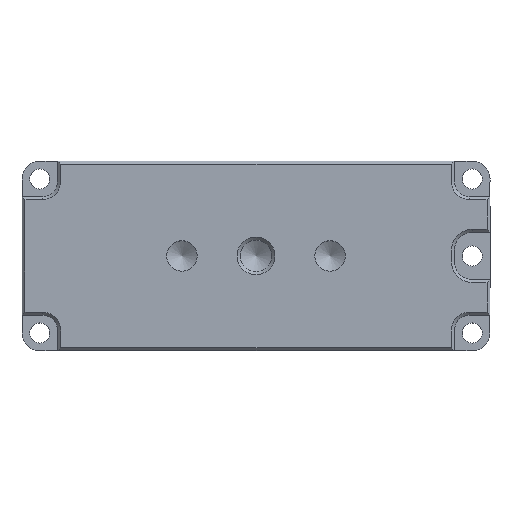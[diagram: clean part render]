
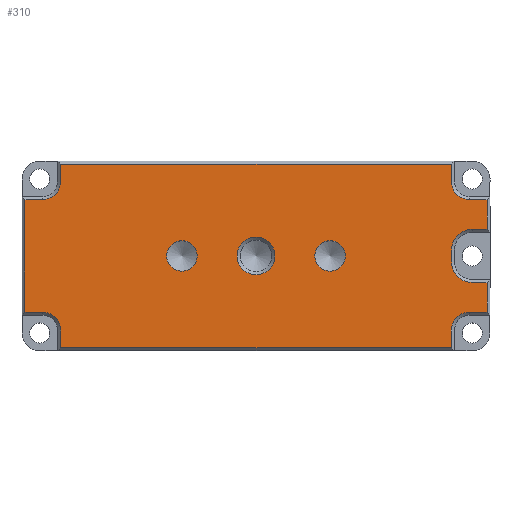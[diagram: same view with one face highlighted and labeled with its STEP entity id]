
A CAD part, top view. The second image highlights one B-rep face of the part: STEP entity #310.
In plain terms, the highlighted planar face has unit normal (0, 0, 1).
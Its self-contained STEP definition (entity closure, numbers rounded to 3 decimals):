
#84=CARTESIAN_POINT('',(-6.816,0.,9.));
#85=VERTEX_POINT('',#84);
#86=CARTESIAN_POINT('',(-10.0,0.0,9.));
#87=DIRECTION('',(0.0,0.0,1.0));
#88=DIRECTION('',(-1.0,0.0,0.0));
#89=AXIS2_PLACEMENT_3D('',#86,#87,#88);
#90=CIRCLE('',#89,3.184);
#91=EDGE_CURVE('',#85,#85,#90,.T.);
#96=CARTESIAN_POINT('',(-10.,0.,9.));
#97=DIRECTION('',(0.0,0.0,1.0));
#98=DIRECTION('',(1.0,0.0,0.0));
#99=AXIS2_PLACEMENT_3D('',#96,#97,#98);
#100=PLANE('',#99);
#101=CARTESIAN_POINT('',(29.,9.5,9.));
#102=VERTEX_POINT('',#101);
#103=CARTESIAN_POINT('',(29.,4.5,9.));
#104=VERTEX_POINT('',#103);
#105=CARTESIAN_POINT('',(29.,9.5,9.));
#106=DIRECTION('',(0.0,-1.0,0.0));
#107=VECTOR('',#106,5.);
#108=LINE('',#105,#107);
#109=EDGE_CURVE('',#102,#104,#108,.T.);
#110=ORIENTED_EDGE('',*,*,#109,.F.);
#111=CARTESIAN_POINT('',(26.,9.5,9.));
#112=VERTEX_POINT('',#111);
#113=CARTESIAN_POINT('',(26.,9.5,9.));
#114=DIRECTION('',(1.0,0.0,0.0));
#115=VECTOR('',#114,3.);
#116=LINE('',#113,#115);
#117=EDGE_CURVE('',#112,#102,#116,.T.);
#118=ORIENTED_EDGE('',*,*,#117,.F.);
#119=CARTESIAN_POINT('',(23.,12.5,9.));
#120=VERTEX_POINT('',#119);
#121=CARTESIAN_POINT('',(26.,12.5,9.));
#122=DIRECTION('',(0.0,0.0,1.));
#123=DIRECTION('',(-0.707,-0.707,0.0));
#124=AXIS2_PLACEMENT_3D('',#121,#122,#123);
#125=CIRCLE('',#124,3.);
#126=EDGE_CURVE('',#120,#112,#125,.T.);
#127=ORIENTED_EDGE('',*,*,#126,.F.);
#128=CARTESIAN_POINT('',(23.,15.5,9.));
#129=VERTEX_POINT('',#128);
#130=CARTESIAN_POINT('',(23.,15.5,9.));
#131=DIRECTION('',(0.0,-1.0,0.0));
#132=VECTOR('',#131,3.);
#133=LINE('',#130,#132);
#134=EDGE_CURVE('',#129,#120,#133,.T.);
#135=ORIENTED_EDGE('',*,*,#134,.F.);
#136=CARTESIAN_POINT('',(-43.,15.5,9.));
#137=VERTEX_POINT('',#136);
#138=CARTESIAN_POINT('',(-43.,15.5,9.));
#139=DIRECTION('',(1.0,0.0,0.0));
#140=VECTOR('',#139,66.);
#141=LINE('',#138,#140);
#142=EDGE_CURVE('',#137,#129,#141,.T.);
#143=ORIENTED_EDGE('',*,*,#142,.F.);
#144=CARTESIAN_POINT('',(-43.,12.5,9.));
#145=VERTEX_POINT('',#144);
#146=CARTESIAN_POINT('',(-43.,12.5,9.));
#147=DIRECTION('',(0.0,1.0,0.0));
#148=VECTOR('',#147,3.);
#149=LINE('',#146,#148);
#150=EDGE_CURVE('',#145,#137,#149,.T.);
#151=ORIENTED_EDGE('',*,*,#150,.F.);
#152=CARTESIAN_POINT('',(-46.,9.5,9.));
#153=VERTEX_POINT('',#152);
#154=CARTESIAN_POINT('',(-46.,12.5,9.));
#155=DIRECTION('',(0.0,0.0,1.));
#156=DIRECTION('',(0.707,-0.707,0.0));
#157=AXIS2_PLACEMENT_3D('',#154,#155,#156);
#158=CIRCLE('',#157,3.);
#159=EDGE_CURVE('',#153,#145,#158,.T.);
#160=ORIENTED_EDGE('',*,*,#159,.F.);
#161=CARTESIAN_POINT('',(-49.,9.5,9.));
#162=VERTEX_POINT('',#161);
#163=CARTESIAN_POINT('',(-49.0,9.5,9.));
#164=DIRECTION('',(1.0,0.0,0.0));
#165=VECTOR('',#164,3.);
#166=LINE('',#163,#165);
#167=EDGE_CURVE('',#162,#153,#166,.T.);
#168=ORIENTED_EDGE('',*,*,#167,.F.);
#169=CARTESIAN_POINT('',(-49.,-9.5,9.));
#170=VERTEX_POINT('',#169);
#171=CARTESIAN_POINT('',(-49.,-9.5,9.));
#172=DIRECTION('',(0.0,1.0,0.0));
#173=VECTOR('',#172,19.0);
#174=LINE('',#171,#173);
#175=EDGE_CURVE('',#170,#162,#174,.T.);
#176=ORIENTED_EDGE('',*,*,#175,.F.);
#177=CARTESIAN_POINT('',(-46.,-9.5,9.));
#178=VERTEX_POINT('',#177);
#179=CARTESIAN_POINT('',(-46.,-9.5,9.));
#180=DIRECTION('',(-1.0,0.0,0.0));
#181=VECTOR('',#180,3.);
#182=LINE('',#179,#181);
#183=EDGE_CURVE('',#178,#170,#182,.T.);
#184=ORIENTED_EDGE('',*,*,#183,.F.);
#185=CARTESIAN_POINT('',(-43.,-12.5,9.));
#186=VERTEX_POINT('',#185);
#187=CARTESIAN_POINT('',(-46.,-12.5,9.));
#188=DIRECTION('',(0.0,0.0,1.));
#189=DIRECTION('',(0.707,0.707,0.0));
#190=AXIS2_PLACEMENT_3D('',#187,#188,#189);
#191=CIRCLE('',#190,3.);
#192=EDGE_CURVE('',#186,#178,#191,.T.);
#193=ORIENTED_EDGE('',*,*,#192,.F.);
#194=CARTESIAN_POINT('',(-43.,-15.5,9.));
#195=VERTEX_POINT('',#194);
#196=CARTESIAN_POINT('',(-43.,-15.5,9.));
#197=DIRECTION('',(0.0,1.0,0.0));
#198=VECTOR('',#197,3.);
#199=LINE('',#196,#198);
#200=EDGE_CURVE('',#195,#186,#199,.T.);
#201=ORIENTED_EDGE('',*,*,#200,.F.);
#202=CARTESIAN_POINT('',(23.,-15.5,9.));
#203=VERTEX_POINT('',#202);
#204=CARTESIAN_POINT('',(23.,-15.5,9.));
#205=DIRECTION('',(-1.0,0.0,0.0));
#206=VECTOR('',#205,66.);
#207=LINE('',#204,#206);
#208=EDGE_CURVE('',#203,#195,#207,.T.);
#209=ORIENTED_EDGE('',*,*,#208,.F.);
#210=CARTESIAN_POINT('',(23.,-12.5,9.));
#211=VERTEX_POINT('',#210);
#212=CARTESIAN_POINT('',(23.,-12.5,9.));
#213=DIRECTION('',(0.0,-1.0,0.0));
#214=VECTOR('',#213,3.);
#215=LINE('',#212,#214);
#216=EDGE_CURVE('',#211,#203,#215,.T.);
#217=ORIENTED_EDGE('',*,*,#216,.F.);
#218=CARTESIAN_POINT('',(26.,-9.5,9.));
#219=VERTEX_POINT('',#218);
#220=CARTESIAN_POINT('',(26.,-12.5,9.));
#221=DIRECTION('',(0.0,0.0,1.));
#222=DIRECTION('',(-0.707,0.707,0.0));
#223=AXIS2_PLACEMENT_3D('',#220,#221,#222);
#224=CIRCLE('',#223,3.);
#225=EDGE_CURVE('',#219,#211,#224,.T.);
#226=ORIENTED_EDGE('',*,*,#225,.F.);
#227=CARTESIAN_POINT('',(29.,-9.5,9.));
#228=VERTEX_POINT('',#227);
#229=CARTESIAN_POINT('',(29.,-9.5,9.));
#230=DIRECTION('',(-1.0,0.0,0.0));
#231=VECTOR('',#230,3.);
#232=LINE('',#229,#231);
#233=EDGE_CURVE('',#228,#219,#232,.T.);
#234=ORIENTED_EDGE('',*,*,#233,.F.);
#235=CARTESIAN_POINT('',(29.,-4.5,9.));
#236=VERTEX_POINT('',#235);
#237=CARTESIAN_POINT('',(29.,-4.5,9.));
#238=DIRECTION('',(0.0,-1.0,0.0));
#239=VECTOR('',#238,5.);
#240=LINE('',#237,#239);
#241=EDGE_CURVE('',#236,#228,#240,.T.);
#242=ORIENTED_EDGE('',*,*,#241,.F.);
#243=CARTESIAN_POINT('',(26.5,-4.5,9.));
#244=VERTEX_POINT('',#243);
#245=CARTESIAN_POINT('',(26.5,-4.5,9.));
#246=DIRECTION('',(1.0,0.0,0.0));
#247=VECTOR('',#246,2.5);
#248=LINE('',#245,#247);
#249=EDGE_CURVE('',#244,#236,#248,.T.);
#250=ORIENTED_EDGE('',*,*,#249,.F.);
#251=CARTESIAN_POINT('',(23.,-1.,9.));
#252=VERTEX_POINT('',#251);
#253=CARTESIAN_POINT('',(26.5,-1.,9.));
#254=DIRECTION('',(0.0,0.0,1.0));
#255=DIRECTION('',(-0.707,-0.707,0.0));
#256=AXIS2_PLACEMENT_3D('',#253,#254,#255);
#257=CIRCLE('',#256,3.5);
#258=EDGE_CURVE('',#252,#244,#257,.T.);
#259=ORIENTED_EDGE('',*,*,#258,.F.);
#260=CARTESIAN_POINT('',(23.,1.,9.));
#261=VERTEX_POINT('',#260);
#262=CARTESIAN_POINT('',(23.,1.,9.));
#263=DIRECTION('',(0.0,-1.0,0.0));
#264=VECTOR('',#263,2.);
#265=LINE('',#262,#264);
#266=EDGE_CURVE('',#261,#252,#265,.T.);
#267=ORIENTED_EDGE('',*,*,#266,.F.);
#268=CARTESIAN_POINT('',(26.5,4.5,9.));
#269=VERTEX_POINT('',#268);
#270=CARTESIAN_POINT('',(26.5,1.,9.));
#271=DIRECTION('',(0.0,0.0,1.0));
#272=DIRECTION('',(-0.707,0.707,0.0));
#273=AXIS2_PLACEMENT_3D('',#270,#271,#272);
#274=CIRCLE('',#273,3.5);
#275=EDGE_CURVE('',#269,#261,#274,.T.);
#276=ORIENTED_EDGE('',*,*,#275,.F.);
#277=CARTESIAN_POINT('',(29.,4.5,9.));
#278=DIRECTION('',(-1.0,0.0,0.0));
#279=VECTOR('',#278,2.5);
#280=LINE('',#277,#279);
#281=EDGE_CURVE('',#104,#269,#280,.T.);
#282=ORIENTED_EDGE('',*,*,#281,.F.);
#283=EDGE_LOOP('',(#110,#118,#127,#135,#143,#151,#160,#168,#176,#184,#193,#201,#209,#217,#226,#234,#242,#250,#259,#267,#276,#282));
#284=FACE_OUTER_BOUND('',#283,.T.);
#285=CARTESIAN_POINT('',(-19.933,0.0,9.));
#286=VERTEX_POINT('',#285);
#287=CARTESIAN_POINT('',(-22.5,0.0,9.));
#288=DIRECTION('',(0.0,0.0,-1.0));
#289=DIRECTION('',(1.0,0.0,0.0));
#290=AXIS2_PLACEMENT_3D('',#287,#288,#289);
#291=CIRCLE('',#290,2.567);
#292=EDGE_CURVE('',#286,#286,#291,.T.);
#293=ORIENTED_EDGE('',*,*,#292,.T.);
#294=EDGE_LOOP('',(#293));
#295=FACE_BOUND('',#294,.T.);
#296=CARTESIAN_POINT('',(5.067,0.0,9.));
#297=VERTEX_POINT('',#296);
#298=CARTESIAN_POINT('',(2.5,0.0,9.));
#299=DIRECTION('',(0.0,0.0,-1.0));
#300=DIRECTION('',(1.0,0.0,0.0));
#301=AXIS2_PLACEMENT_3D('',#298,#299,#300);
#302=CIRCLE('',#301,2.567);
#303=EDGE_CURVE('',#297,#297,#302,.T.);
#304=ORIENTED_EDGE('',*,*,#303,.T.);
#305=EDGE_LOOP('',(#304));
#306=FACE_BOUND('',#305,.T.);
#307=ORIENTED_EDGE('',*,*,#91,.F.);
#308=EDGE_LOOP('',(#307));
#309=FACE_BOUND('',#308,.T.);
#310=ADVANCED_FACE('',(#284,#295,#306,#309),#100,.T.);
